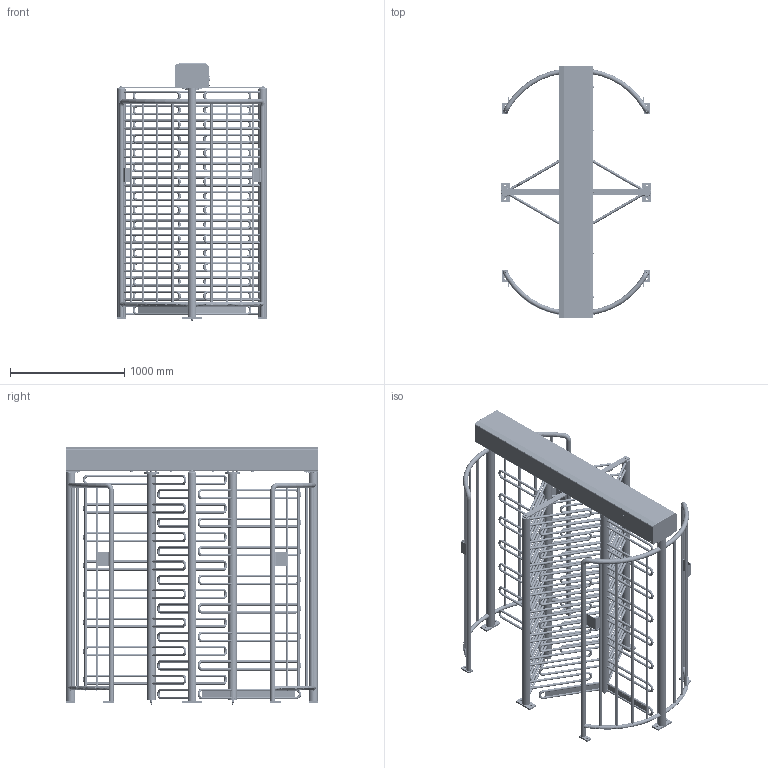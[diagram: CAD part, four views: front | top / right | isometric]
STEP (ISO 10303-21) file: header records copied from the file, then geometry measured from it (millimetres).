
FILE_DESCRIPTION(/* description */ ('KPW JC004 closed'),/* implementation_level */ '2;1');
FILE_NAME(/* name */ 'MPT-353C-A300',/* time_stamp */ '2021-02-25T13:27:04+01:00',/* author */ ('Unknown'),/* organization */ ('Unknown'),/* preprocessor_version */ 'ST-DEVELOPER v16.7',/* originating_system */ 'DEX',/* authorisation */ $);
FILE_SCHEMA (('AUTOMOTIVE_DESIGN {1 0 10303 214 3 1 1}'));
Products named in the file (92): MPT-353C-A300; 20595045; 20525067; 20525052; 20525058; 20525055; 20645030; 20645027; 20645033; 20525061; 20195073; 20595105; 20595105a; 20595105d; 20595105b; 20595105c; 20590135; 20520115; 20570003; 20175081; 20325019; 20585017; 20430503; 20520103; 20400228; 20645025; 20430512; 20520121; 20590139; 20520118; 34980018; 34865010; 34905003; 35000014; 33070008; 34950006; 33060007; 34980020; 20180333; 20180333a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
Assembly tree (357 placements, depth 4):
  MPT-353C-A300
    20595045  x2
      20525067
      20525052
      20525058
      20525055
      20645030
      20645027
      20645033
      20525061
      20195073
    20595105
      20595105a
      20595105d
      20595105b
      20595105c  x2
    20590135
      20520115
      20570003  x16
      20645030
      20175081
    20325019  x8
    20585017
    20430503
      20520103
      20570003  x24
      20400228  x3
      20645025
    20430512
      20520121
      20570003  x24
      20645025
    20590139
      20520118
      20570003  x16
      20645030
      20175081
    34980018  x8
    34865010  x8
    34905003  x10
    35000014  x8
    33070008  x8
    34950006  x2
    33060007  x4
    34980020  x4
    20180333  x4
      20180333a
      20180333b
    35130009  x2
    34905007  x10
    20185022
      20185022a
      20185022b
    33075000  x18
    34905008  x8
    35005000  x8
    10085034
      20295109
        20295109a
        20295109b
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Bounding box: 1318 x 2210 x 2252.99 mm (x, y, z)
Volume: 46160847.1 mm3; surface area: 29405101.4 mm2
Topology: 419 solids, 420 shells, 7122 faces, 16812 edges, 10600 vertices
Faces by surface type: plane 3579, cylinder 2197, cone 941, torus 304, bspline 99, sphere 2
Full cylindrical faces by diameter (mm): 0.1 x18, 1 x18, 1.7 x2, 3 x2, 3.3 x8, 4 x6, 4.019 x5, 4.02 x10, 4.2 x33, 4.3 x8, 4.5 x4, 5 x38, 5.3 x29, 5.5 x12, 5.9 x2, 6 x2, 6.4 x6, 6.5 x2, 6.8 x6, 7 x4, 8 x21, 8.16 x2, 8.376 x2, 8.5 x91, 8.8 x2, 9 x8, 10 x26, 10.106 x20, 10.156 x18, 10.2 x2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
Entity records: 74227 total; most frequent: CARTESIAN_POINT 21319, DIRECTION 9822, ORIENTED_EDGE 9308, EDGE_CURVE 4654, AXIS2_PLACEMENT_3D 3561, VERTEX_POINT 3289, FACE_BOUND 3239, EDGE_LOOP 3232
